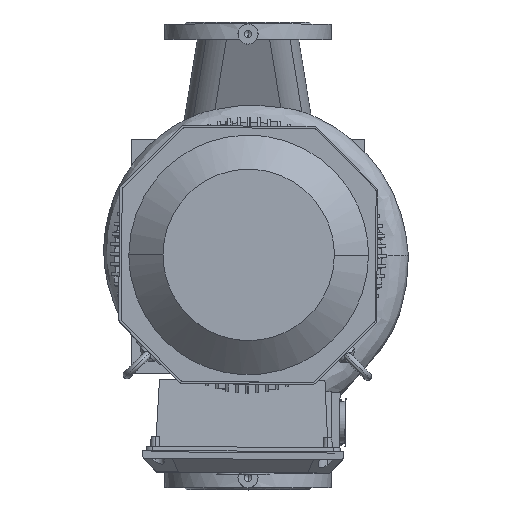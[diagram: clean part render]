
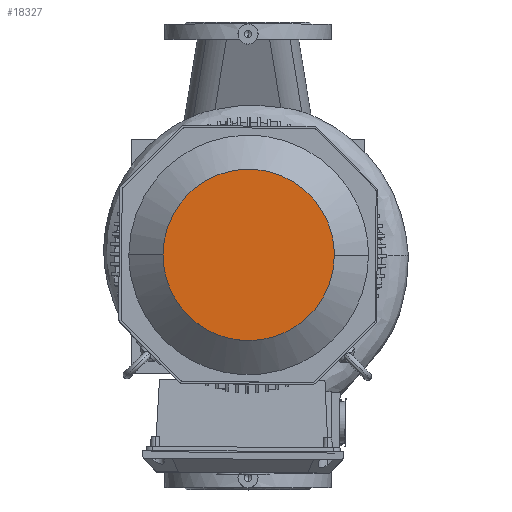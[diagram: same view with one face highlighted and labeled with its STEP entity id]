
A CAD part, top view. The second image highlights one B-rep face of the part: STEP entity #18327.
In plain terms, the highlighted free-form (B-spline) face has degree [1, 1] with [2, 2] control points.
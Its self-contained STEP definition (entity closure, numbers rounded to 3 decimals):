
#18327=ADVANCED_FACE('     F36',(#35597),#35598,.T.);
#18409=EDGE_CURVE('     E99',#35723,#35724,#35725,.T.);
#18413=EDGE_CURVE('     E99',#35724,#35723,#35729,.T.);
#35597=FACE_OUTER_BOUND('',#87107,.T.);
#35598=B_SPLINE_SURFACE_WITH_KNOTS('',1,1,((#87108,#87109),(#87110,#87111)),.UNSPECIFIED.,.F.,.F.,.F.,(2,2),(2,2),(0.044,0.955),(0.039,0.96),.UNSPECIFIED.);
#35723=VERTEX_POINT('',#87552);
#35724=VERTEX_POINT('',#87553);
#35725=(B_SPLINE_CURVE(2,(#87555,#87556,#87557,#87558,#87559),.UNSPECIFIED.,.F.,.F.)B_SPLINE_CURVE_WITH_KNOTS((3,2,3),(64.683,86.244,129.365),.UNSPECIFIED.)RATIONAL_B_SPLINE_CURVE((0.75,0.75,1.0,0.5,1.0))BOUNDED_CURVE()REPRESENTATION_ITEM('')GEOMETRIC_REPRESENTATION_ITEM()CURVE());
#35729=(B_SPLINE_CURVE(2,(#87573,#87574,#87575,#87576,#87577),.UNSPECIFIED.,.F.,.F.)B_SPLINE_CURVE_WITH_KNOTS((3,2,3),(0.0,43.122,64.683),.UNSPECIFIED.)RATIONAL_B_SPLINE_CURVE((1.0,0.5,1.0,0.75,0.75))BOUNDED_CURVE()REPRESENTATION_ITEM('')GEOMETRIC_REPRESENTATION_ITEM()CURVE());
#87107=EDGE_LOOP('',(#103150,#103151));
#87108=CARTESIAN_POINT('',(-269.045,153.272,-215.6));
#87109=CARTESIAN_POINT('',(-269.045,-103.789,-215.6));
#87110=CARTESIAN_POINT('',(-12.172,153.272,-215.6));
#87111=CARTESIAN_POINT('',(-12.172,-103.789,-215.6));
#87552=CARTESIAN_POINT('',(-268.613,24.546,-215.6));
#87553=CARTESIAN_POINT('',(-12.181,24.546,-215.6));
#87555=CARTESIAN_POINT('',(-268.613,24.546,-215.6));
#87556=CARTESIAN_POINT('',(-268.613,-49.479,-215.6));
#87557=CARTESIAN_POINT('',(-204.505,-86.492,-215.6));
#87558=CARTESIAN_POINT('',(-12.181,-197.531,-215.6));
#87559=CARTESIAN_POINT('',(-12.181,24.546,-215.6));
#87573=CARTESIAN_POINT('',(-12.181,24.546,-215.6));
#87574=CARTESIAN_POINT('',(-12.181,246.623,-215.6));
#87575=CARTESIAN_POINT('',(-204.505,135.585,-215.6));
#87576=CARTESIAN_POINT('',(-268.613,98.572,-215.6));
#87577=CARTESIAN_POINT('',(-268.613,24.546,-215.6));
#103150=ORIENTED_EDGE('',*,*,#18413,.F.);
#103151=ORIENTED_EDGE('',*,*,#18409,.F.);
